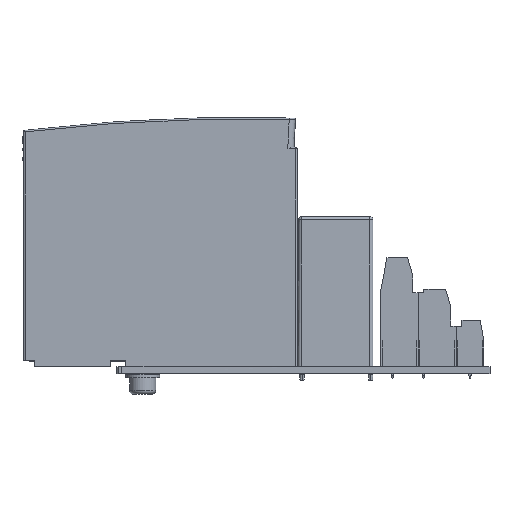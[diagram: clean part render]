
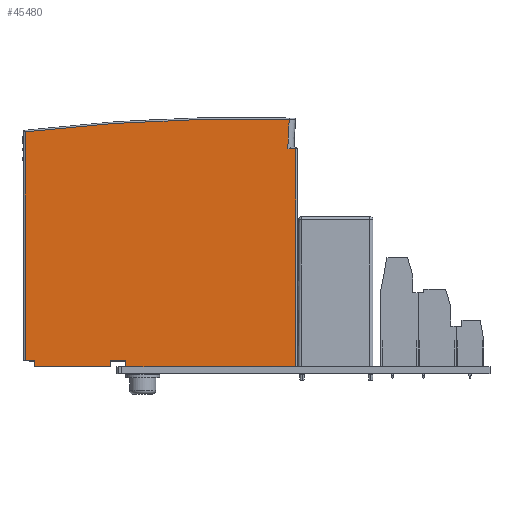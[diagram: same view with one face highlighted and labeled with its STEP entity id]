
A CAD part, top view. The second image highlights one B-rep face of the part: STEP entity #45480.
In plain terms, the highlighted planar face has unit normal (0, 0, 1).
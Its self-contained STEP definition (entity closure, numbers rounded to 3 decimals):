
#2650=CARTESIAN_POINT('',(56.997,0.,24.998));
#3115=DIRECTION('',(1.,0.,0.));
#3116=VECTOR('',#3115,55.497);
#3117=CARTESIAN_POINT('',(1.5,0.,24.998));
#3118=LINE('',#3117,#3116);
#5678=DIRECTION('',(-1.,0.,0.));
#5679=VECTOR('',#5678,2.499);
#5680=CARTESIAN_POINT('',(57.,71.21,24.995));
#5681=LINE('',#5680,#5679);
#5864=DIRECTION('',(0.,1.,0.));
#5865=VECTOR('',#5864,71.21);
#5866=CARTESIAN_POINT('',(56.997,0.,24.998));
#5867=LINE('',#5866,#5865);
#5872=DIRECTION('',(-1.,0.,0.));
#5873=VECTOR('',#5872,3.);
#5874=CARTESIAN_POINT('',(-28.5,2.01,24.995));
#5875=LINE('',#5874,#5873);
#5876=DIRECTION('',(0.,1.,0.));
#5877=VECTOR('',#5876,74.756);
#5878=CARTESIAN_POINT('',(-31.5,2.01,24.995));
#5879=LINE('',#5878,#5877);
#5880=CARTESIAN_POINT('',(39.464,-518.519,24.995));
#5881=DIRECTION('',(0.,0.,-1.));
#5882=DIRECTION('',(-0.118,0.993,0.));
#5883=AXIS2_PLACEMENT_3D('',#5880,#5881,#5882);
#5885=CARTESIAN_POINT('',(146.5,71.71,24.995));
#5886=DIRECTION('',(0.,0.,1.));
#5887=DIRECTION('',(-0.995,0.099,0.));
#5888=AXIS2_PLACEMENT_3D('',#5885,#5886,#5887);
#5898=DIRECTION('',(0.,-1.,0.001));
#5899=VECTOR('',#5898,2.01);
#5900=CARTESIAN_POINT('',(1.5,2.01,24.995));
#5901=LINE('',#5900,#5899);
#5906=DIRECTION('',(1.,0.,0.));
#5907=VECTOR('',#5906,5.);
#5908=CARTESIAN_POINT('',(-3.5,2.01,24.995));
#5909=LINE('',#5908,#5907);
#5922=DIRECTION('',(0.,1.,0.));
#5923=VECTOR('',#5922,2.);
#5924=CARTESIAN_POINT('',(-3.5,0.01,24.995));
#5925=LINE('',#5924,#5923);
#5926=DIRECTION('',(1.,0.,0.));
#5927=VECTOR('',#5926,25.);
#5928=CARTESIAN_POINT('',(-28.5,0.01,24.995));
#5929=LINE('',#5928,#5927);
#5938=DIRECTION('',(0.,-1.,0.));
#5939=VECTOR('',#5938,2.);
#5940=CARTESIAN_POINT('',(-28.5,2.01,24.995));
#5941=LINE('',#5940,#5939);
#35392=CARTESIAN_POINT('',(-31.5,76.766,24.995));
#35394=VERTEX_POINT('',#35392);
#35398=CARTESIAN_POINT('',(-31.5,2.01,24.995));
#35400=VERTEX_POINT('',#35398);
#35893=CARTESIAN_POINT('',(54.948,80.781,24.995));
#35894=VERTEX_POINT('',#35893);
#35895=CARTESIAN_POINT('',(57.,71.21,24.995));
#35896=CARTESIAN_POINT('',(54.501,71.21,24.995));
#35897=VERTEX_POINT('',#35895);
#35898=VERTEX_POINT('',#35896);
#35899=CARTESIAN_POINT('',(-3.5,2.01,24.995));
#35900=CARTESIAN_POINT('',(1.5,2.01,24.995));
#35901=VERTEX_POINT('',#35899);
#35902=VERTEX_POINT('',#35900);
#35903=CARTESIAN_POINT('',(-3.5,0.01,24.995));
#35904=VERTEX_POINT('',#35903);
#35905=CARTESIAN_POINT('',(-28.5,0.01,24.995));
#35906=VERTEX_POINT('',#35905);
#35907=CARTESIAN_POINT('',(-28.5,2.01,24.995));
#35908=VERTEX_POINT('',#35907);
#38074=CARTESIAN_POINT('',(1.5,0.,24.998));
#38075=VERTEX_POINT('',#38074);
#38076=VERTEX_POINT('',#2650);
#45452=CARTESIAN_POINT('',(12.75,40.518,24.995));
#45453=DIRECTION('',(0.,0.,1.));
#45454=DIRECTION('',(0.,-1.,0.));
#45455=AXIS2_PLACEMENT_3D('',#45452,#45453,#45454);
#45456=PLANE('',#45455);
#45457=ORIENTED_EDGE('',*,*,#41625,.F.);
#45459=ORIENTED_EDGE('',*,*,#45458,.F.);
#45461=ORIENTED_EDGE('',*,*,#45460,.F.);
#45463=ORIENTED_EDGE('',*,*,#45462,.F.);
#45465=ORIENTED_EDGE('',*,*,#45464,.F.);
#45467=ORIENTED_EDGE('',*,*,#45466,.F.);
#45469=ORIENTED_EDGE('',*,*,#45468,.T.);
#45471=ORIENTED_EDGE('',*,*,#45470,.T.);
#45473=ORIENTED_EDGE('',*,*,#45472,.T.);
#45475=ORIENTED_EDGE('',*,*,#45474,.T.);
#45476=ORIENTED_EDGE('',*,*,#45155,.F.);
#45477=ORIENTED_EDGE('',*,*,#45445,.F.);
#45478=EDGE_LOOP('',(#45457,#45459,#45461,#45463,#45465,#45467,#45469,#45471,
#45473,#45475,#45476,#45477));
#45479=FACE_OUTER_BOUND('',#45478,.F.);
#5884=CIRCLE('',#5883,599.5);
#5889=CIRCLE('',#5888,92.);
#41625=EDGE_CURVE('',#38075,#38076,#3118,.T.);
#45155=EDGE_CURVE('',#35897,#35898,#5681,.T.);
#45445=EDGE_CURVE('',#38076,#35897,#5867,.T.);
#45458=EDGE_CURVE('',#35902,#38075,#5901,.T.);
#45460=EDGE_CURVE('',#35901,#35902,#5909,.T.);
#45462=EDGE_CURVE('',#35904,#35901,#5925,.T.);
#45464=EDGE_CURVE('',#35906,#35904,#5929,.T.);
#45466=EDGE_CURVE('',#35908,#35906,#5941,.T.);
#45468=EDGE_CURVE('',#35908,#35400,#5875,.T.);
#45470=EDGE_CURVE('',#35400,#35394,#5879,.T.);
#45472=EDGE_CURVE('',#35394,#35894,#5884,.T.);
#45474=EDGE_CURVE('',#35894,#35898,#5889,.T.);
#45480=ADVANCED_FACE('',(#45479),#45456,.T.);
